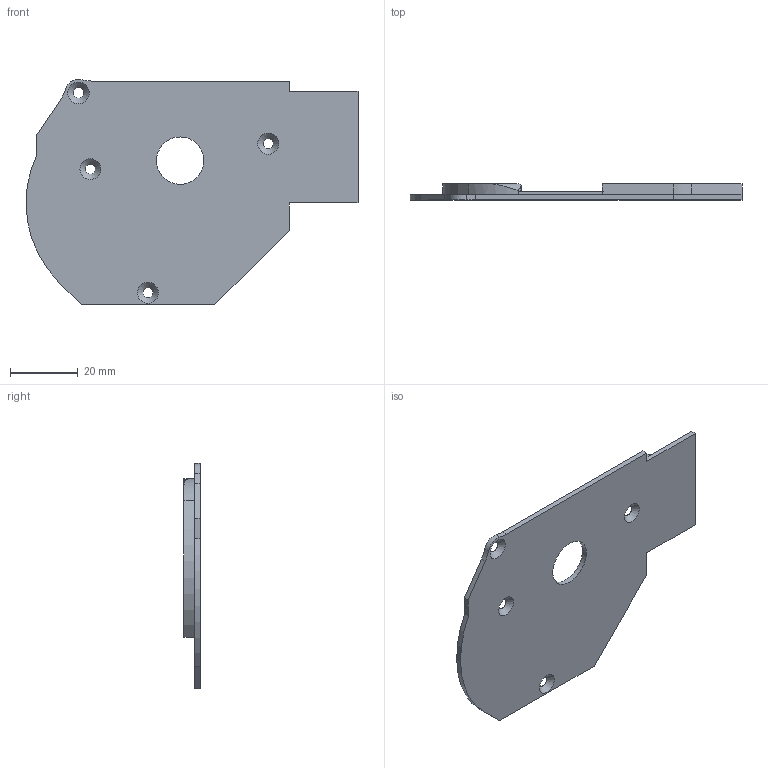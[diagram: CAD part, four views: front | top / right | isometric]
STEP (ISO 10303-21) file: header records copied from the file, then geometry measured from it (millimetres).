
FILE_DESCRIPTION(('FreeCAD Model'),'2;1');
FILE_NAME('Open CASCADE Shape Model','2026-07-02T18:48:13',('FreeCAD'),( 'FreeCAD'),'Open CASCADE STEP processor 7.8','FreeCAD','Unknown');
FILE_SCHEMA(('AUTOMOTIVE_DESIGN { 1 0 10303 214 1 1 1 1 }'));
Length unit declared in the file: millimetre
Products named in the file (1): Open CASCADE STEP translator 7.8 17
Bounding box: 98 x 4.8 x 66.49 mm (x, y, z)
Volume: 9698.2 mm3; surface area: 11390 mm2
Topology: 1 solids, 1 shells, 43 faces, 115 edges, 74 vertices
Faces by surface type: plane 22, cylinder 16, cone 4, bspline 1
Full cylindrical faces by diameter (mm): 3 x3, 3.2 x1, 14 x1
Entity records: 1480 total; most frequent: CARTESIAN_POINT 358, DIRECTION 230, ORIENTED_EDGE 230, EDGE_CURVE 115, AXIS2_PLACEMENT_3D 79, VERTEX_POINT 74, LINE 72, VECTOR 72
